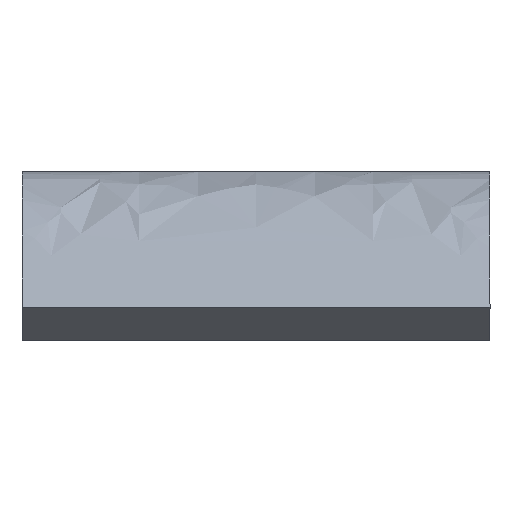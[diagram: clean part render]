
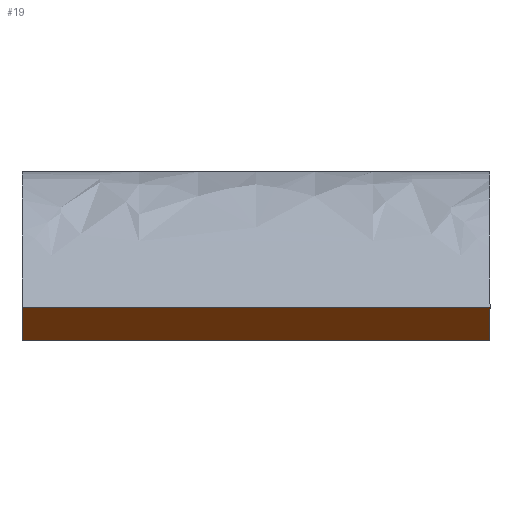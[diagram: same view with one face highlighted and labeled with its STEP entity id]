
A CAD part, left-side view. The second image highlights one B-rep face of the part: STEP entity #19.
In plain terms, the highlighted planar face has unit normal (-0.508, 0, -0.861).
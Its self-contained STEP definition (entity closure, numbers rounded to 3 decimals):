
#19=ADVANCED_FACE('',(#30),#182,.T.);
#30=FACE_OUTER_BOUND('',#42,.T.);
#42=EDGE_LOOP('',(#69,#70,#71,#72));
#69=ORIENTED_EDGE('',*,*,#117,.T.);
#70=ORIENTED_EDGE('',*,*,#113,.T.);
#71=ORIENTED_EDGE('',*,*,#116,.F.);
#72=ORIENTED_EDGE('',*,*,#109,.F.);
#109=EDGE_CURVE('',#162,#161,#133,.T.);
#113=EDGE_CURVE('',#166,#165,#135,.T.);
#116=EDGE_CURVE('',#161,#165,#137,.T.);
#117=EDGE_CURVE('',#162,#166,#138,.T.);
#133=B_SPLINE_CURVE_WITH_KNOTS('',1,(#455,#456),.UNSPECIFIED.,.F.,.F.,(2,
2),(113.932,116.432),.UNSPECIFIED.);
#135=B_SPLINE_CURVE_WITH_KNOTS('',1,(#495,#496),.UNSPECIFIED.,.F.,.F.,(2,
2),(113.932,116.432),.UNSPECIFIED.);
#137=B_SPLINE_CURVE_WITH_KNOTS('',1,(#522,#523),.UNSPECIFIED.,.F.,.F.,(2,
2),(0.,50.),.UNSPECIFIED.);
#138=B_SPLINE_CURVE_WITH_KNOTS('',1,(#524,#525),.UNSPECIFIED.,.F.,.F.,(2,
2),(0.,50.),.UNSPECIFIED.);
#161=VERTEX_POINT('',#402);
#162=VERTEX_POINT('',#403);
#165=VERTEX_POINT('',#406);
#166=VERTEX_POINT('',#407);
#182=PLANE('',#278);
#278=AXIS2_PLACEMENT_3D('',#326,#289,$);
#289=DIRECTION('',(-0.508,0.,-0.861));
#326=CARTESIAN_POINT('',(-29.074,-9.,-1.));
#402=CARTESIAN_POINT('',(-29.074,-9.,-1.));
#403=CARTESIAN_POINT('',(-31.227,-9.,0.271));
#406=CARTESIAN_POINT('',(-29.074,9.,-1.));
#407=CARTESIAN_POINT('',(-31.227,9.,0.271));
#455=CARTESIAN_POINT('',(-31.227,-9.,0.271));
#456=CARTESIAN_POINT('',(-29.074,-9.,-1.));
#495=CARTESIAN_POINT('',(-31.227,9.,0.271));
#496=CARTESIAN_POINT('',(-29.074,9.,-1.));
#522=CARTESIAN_POINT('',(-29.074,-9.,-1.));
#523=CARTESIAN_POINT('',(-29.074,9.,-1.));
#524=CARTESIAN_POINT('',(-31.227,-9.,0.271));
#525=CARTESIAN_POINT('',(-31.227,9.,0.271));
